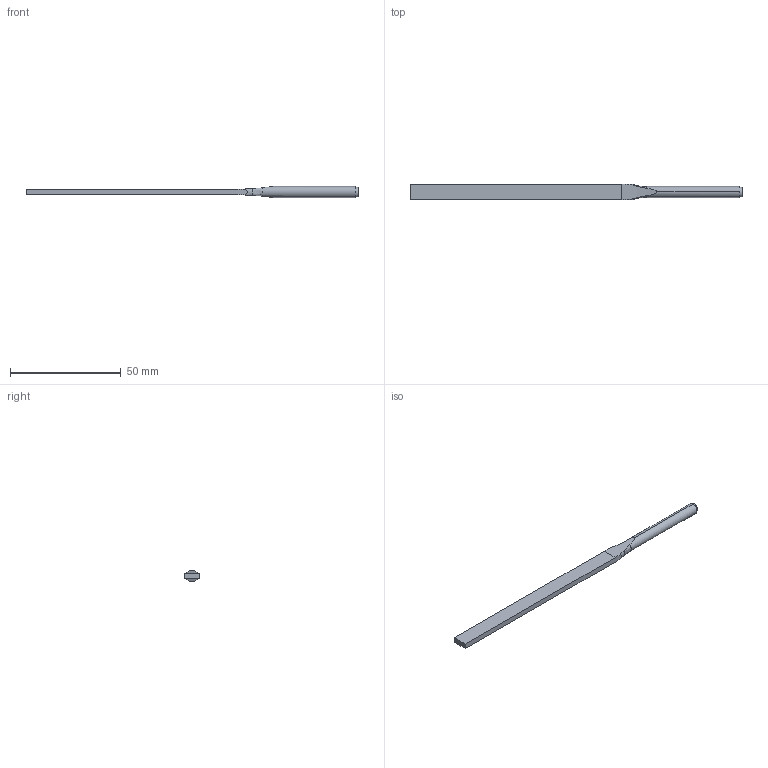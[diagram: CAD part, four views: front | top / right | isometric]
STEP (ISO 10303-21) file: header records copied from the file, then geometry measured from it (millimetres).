
FILE_DESCRIPTION (( 'STEP AP203' ), '1' );
FILE_NAME ('チタンスーパーソー平.STEP', '2026-07-03T06:24:52', ( '' ), ( '' ), 'SwSTEP 2.0', 'SolidWorks 2016', '' );
FILE_SCHEMA (( 'CONFIG_CONTROL_DESIGN' ));
Length unit declared in the file: millimetre
Products named in the file (1): チタンスーパーソー平
Bounding box: 150 x 7 x 5 mm (x, y, z)
Volume: 2704.5 mm3; surface area: 2718.3 mm2
Topology: 1 solids, 1 shells, 16 faces, 40 edges, 26 vertices
Faces by surface type: plane 6, cylinder 4, torus 2, bspline 2, cone 2
Entity records: 693 total; most frequent: CARTESIAN_POINT 255, ORIENTED_EDGE 80, DIRECTION 68, EDGE_CURVE 40, AXIS2_PLACEMENT_3D 27, VERTEX_POINT 26, EDGE_LOOP 16, ADVANCED_FACE 16
